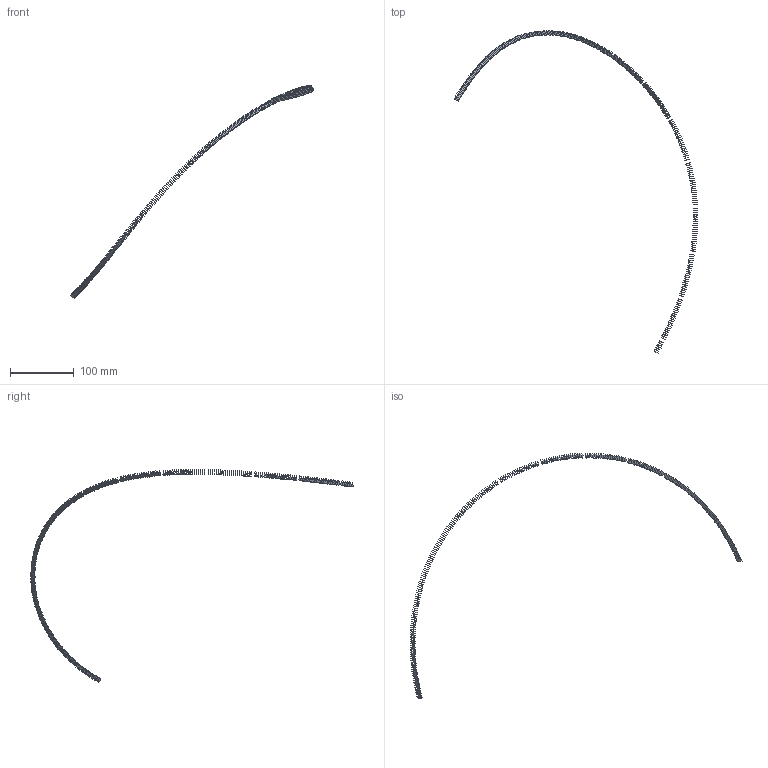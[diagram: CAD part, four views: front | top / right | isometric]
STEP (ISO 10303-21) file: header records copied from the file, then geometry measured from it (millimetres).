
FILE_DESCRIPTION(('FreeCAD Model'),'2;1');
FILE_NAME('Open CASCADE Shape Model','2022-05-22T07:50:09',('FreeCAD'),( 'FreeCAD'),'Open CASCADE STEP processor 7.5','FreeCAD','Unknown');
FILE_SCHEMA(('AUTOMOTIVE_DESIGN { 1 0 10303 214 1 1 1 1 }'));
Length unit declared in the file: millimetre
Products named in the file (299): Open CASCADE STEP translator 7.5 4; Open CASCADE STEP translator 7.5 4.1; Open CASCADE STEP translator 7.5 4.2; Open CASCADE STEP translator 7.5 4.3; Open CASCADE STEP translator 7.5 4.4; Open CASCADE STEP translator 7.5 4.5; Open CASCADE STEP translator 7.5 4.6; Open CASCADE STEP translator 7.5 4.7; Open CASCADE STEP translator 7.5 4.8; Open CASCADE STEP translator 7.5 4.9; Open CASCADE STEP translator 7.5 4.10; Open CASCADE STEP translator 7.5 4.11; Open CASCADE STEP translator 7.5 4.12; Open CASCADE STEP translator 7.5 4.13; Open CASCADE STEP translator 7.5 4.14; Open CASCADE STEP translator 7.5 4.15; Open CASCADE STEP translator 7.5 4.16; Open CASCADE STEP translator 7.5 4.17; Open CASCADE STEP translator 7.5 4.18; Open CASCADE STEP translator 7.5 4.19; Open CASCADE STEP translator 7.5 4.20; Open CASCADE STEP translator 7.5 4.21; Open CASCADE STEP translator 7.5 4.22; Open CASCADE STEP translator 7.5 4.23; Open CASCADE STEP translator 7.5 4.24; Open CASCADE STEP translator 7.5 4.25; Open CASCADE STEP translator 7.5 4.26; Open CASCADE STEP translator 7.5 4.27; Open CASCADE STEP translator 7.5 4.28; Open CASCADE STEP translator 7.5 4.29; Open CASCADE STEP translator 7.5 4.30; Open CASCADE STEP translator 7.5 4.31; Open CASCADE STEP translator 7.5 4.32; Open CASCADE STEP translator 7.5 4.33; Open CASCADE STEP translator 7.5 4.34; Open CASCADE STEP translator 7.5 4.35; Open CASCADE STEP translator 7.5 4.36; Open CASCADE STEP translator 7.5 4.37; Open CASCADE STEP translator 7.5 4.38; Open CASCADE STEP translator 7.5 4.39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
Assembly tree (298 placements, depth 2):
  Open CASCADE STEP translator 7.5 4
    Open CASCADE STEP translator 7.5 4.1
    Open CASCADE STEP translator 7.5 4.2
    Open CASCADE STEP translator 7.5 4.3
    Open CASCADE STEP translator 7.5 4.4
    Open CASCADE STEP translator 7.5 4.5
    Open CASCADE STEP translator 7.5 4.6
    Open CASCADE STEP translator 7.5 4.7
    Open CASCADE STEP translator 7.5 4.8
    Open CASCADE STEP translator 7.5 4.9
    Open CASCADE STEP translator 7.5 4.10
    Open CASCADE STEP translator 7.5 4.11
    Open CASCADE STEP translator 7.5 4.12
    Open CASCADE STEP translator 7.5 4.13
    Open CASCADE STEP translator 7.5 4.14
    Open CASCADE STEP translator 7.5 4.15
    Open CASCADE STEP translator 7.5 4.16
    Open CASCADE STEP translator 7.5 4.17
    Open CASCADE STEP translator 7.5 4.18
    Open CASCADE STEP translator 7.5 4.19
    Open CASCADE STEP translator 7.5 4.20
    Open CASCADE STEP translator 7.5 4.21
    Open CASCADE STEP translator 7.5 4.22
    Open CASCADE STEP translator 7.5 4.23
    Open CASCADE STEP translator 7.5 4.24
    Open CASCADE STEP translator 7.5 4.25
    Open CASCADE STEP translator 7.5 4.26
    Open CASCADE STEP translator 7.5 4.27
    Open CASCADE STEP translator 7.5 4.28
    Open CASCADE STEP translator 7.5 4.29
    Open CASCADE STEP translator 7.5 4.30
    Open CASCADE STEP translator 7.5 4.31
    Open CASCADE STEP translator 7.5 4.32
    Open CASCADE STEP translator 7.5 4.33
    Open CASCADE STEP translator 7.5 4.34
    Open CASCADE STEP translator 7.5 4.35
    Open CASCADE STEP translator 7.5 4.36
    Open CASCADE STEP translator 7.5 4.37
    Open CASCADE STEP translator 7.5 4.38
    Open CASCADE STEP translator 7.5 4.39
    Open CASCADE STEP translator 7.5 4.40
    Open CASCADE STEP translator 7.5 4.41
    Open CASCADE STEP translator 7.5 4.42
    Open CASCADE STEP translator 7.5 4.43
    Open CASCADE STEP translator 7.5 4.44
    Open CASCADE STEP translator 7.5 4.45
    Open CASCADE STEP translator 7.5 4.46
    Open CASCADE STEP translator 7.5 4.47
    Open CASCADE STEP translator 7.5 4.48
    Open CASCADE STEP translator 7.5 4.49
    Open CASCADE STEP translator 7.5 4.50
    Open CASCADE STEP translator 7.5 4.51
    Open CASCADE STEP translator 7.5 4.52
    Open CASCADE STEP translator 7.5 4.53
    Open CASCADE STEP translator 7.5 4.54
    Open CASCADE STEP translator 7.5 4.55
    Open CASCADE STEP translator 7.5 4.56
    Open CASCADE STEP translator 7.5 4.57
    Open CASCADE STEP translator 7.5 4.58
    Open CASCADE STEP translator 7.5 4.59
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Bounding box: 381.02 x 504.16 x 333.55 mm (x, y, z)
Surface area: 9436.8 mm2 (no closed solid volume)
Topology: 0 solids, 298 shells, 298 faces, 2900 edges, 2900 vertices
Faces by surface type: bspline 298
Entity records: 46060 total; most frequent: CARTESIAN_POINT 15991, B_SPLINE_CURVE_WITH_KNOTS 5800, ORIENTED_EDGE 2900, EDGE_CURVE 2900, VERTEX_POINT 2900, SURFACE_CURVE 2900, PCURVE 2900, DEFINITIONAL_REPRESENTATION 2900
